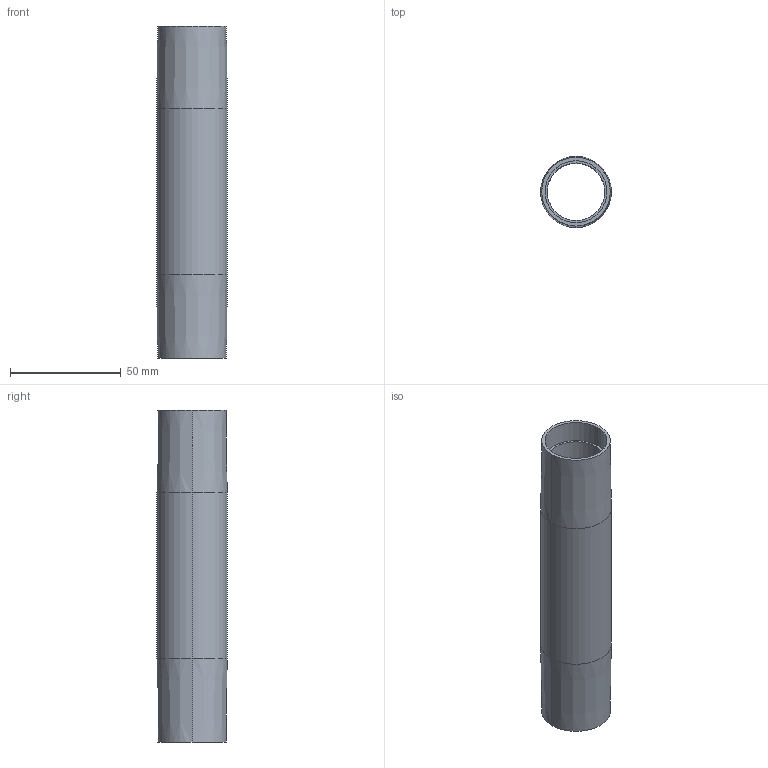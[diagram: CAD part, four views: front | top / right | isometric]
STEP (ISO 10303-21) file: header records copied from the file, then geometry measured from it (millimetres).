
FILE_DESCRIPTION (( 'STEP AP214' ), '1' );
FILE_NAME ('084.030.127.STEP', '2021-02-05T15:40:15', ( '' ), ( '' ), 'SwSTEP 2.0', 'SolidWorks 2018', '' );
FILE_SCHEMA (( 'AUTOMOTIVE_DESIGN' ));
Length unit declared in the file: millimetre
Products named in the file (1): 084.030.127
Bounding box: 32 x 32 x 150 mm (x, y, z)
Volume: 37436 mm3; surface area: 27788 mm2
Topology: 1 solids, 1 shells, 16 faces, 32 edges, 20 vertices
Faces by surface type: cylinder 8, cone 4, plane 4
Entity records: 462 total; most frequent: DIRECTION 86, CARTESIAN_POINT 69, ORIENTED_EDGE 64, AXIS2_PLACEMENT_3D 37, EDGE_CURVE 32, EDGE_LOOP 20, VERTEX_POINT 20, CIRCLE 20
